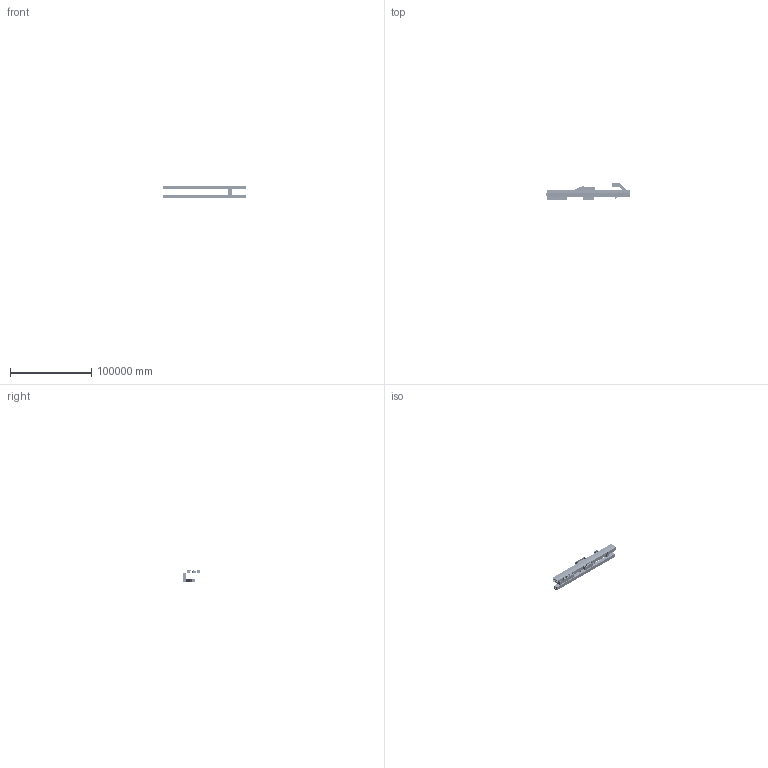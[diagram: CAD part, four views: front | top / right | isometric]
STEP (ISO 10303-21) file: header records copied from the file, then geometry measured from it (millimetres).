
FILE_DESCRIPTION(/* description */ ('Unknown','CAx-IF Rec.Pracs.---Representation and Presentation of Product Manufacturing Information (PMI)---4.0---2014-10-13','CAx-IF Rec.Pracs.---3D Tessellated Geometry---0.4---2014-09-14','2;1'),/* implementation_level */ '2;1');
FILE_NAME(/* name */ 'DSG-000024080_sector_10',/* time_stamp */ '2022-01-14T10:21:58-08:00',/* author */ ('Unknown'),/* organization */ ('Unknown'),/* preprocessor_version */ 'ST-DEVELOPER v16.7',/* originating_system */ 'DEX',/* authorisation */ $);
FILE_SCHEMA (('AP242_MANAGED_MODEL_BASED_3D_ENGINEERING_MIM_LF { 1 0 10303 442 1 1 4 }'));
Products named in the file (274): DSG-000024080; DSG-000017704; REF-000116566; REF-000166867; REF-000116570; REF-000116572; REF-000116567; DSG-000017705; REF-000129618; REF-000144345; REF-000092901; REF-000092910; REF-000144333; REF-000144346; REF-000129621; REF-000129617; REF-000144348; REF-000129622; REF-000144336; REF-000144349; REF-000144329; REF-000129616; REF-000144332; REF-000129620; REF-000129615; REF-000092902; REF-000144335; REF-000129614; REF-000129613; REF-000129619; REF-000144347; REF-000144338; REF-000129610; REF-000144339; REF-000129611; REF-000129612; REF-000144340; REF-000129609; REF-000144362; REF-000129623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
Assembly tree (1047 placements, depth 7):
  DSG-000024080
    DSG-000017704
      REF-000116566
        REF-000166867
        REF-000116570
        REF-000116572
        REF-000116567
      DSG-000017705
        REF-000166867
        REF-000129618
        REF-000144345
        REF-000092901
        REF-000092910  x9
        REF-000144333
        REF-000144346
        REF-000129621
        REF-000129617
        REF-000144348
        REF-000129622
        REF-000144336  x2
        REF-000144349
        REF-000144329
        REF-000129616
        REF-000144332
        REF-000129620
        REF-000129615
        REF-000092902
        REF-000144335
        REF-000129614
        REF-000129613
        REF-000129619
        REF-000144347
        REF-000144338
        REF-000129610
        REF-000144339
        REF-000129611
        REF-000129612
        REF-000144340
        REF-000129609
        REF-000144362
        REF-000129623
        REF-000144344
        REF-000129624
        REF-000144341
        REF-000144343
        REF-000144334
        REF-000144331
        REF-000144330
        REF-000144342
        REF-000144350
        REF-000144351
        REF-000144352
        REF-000144353
        REF-000144354
        REF-000144355
      DSG-000017706
        REF-000166867
        REF-000113325
        REF-000092897
        REF-000130374
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Bounding box: 408503.81 x 21364 x 15910.06 mm (x, y, z)
Volume: 14513585485609.6 mm3; surface area: 85614777766.1 mm2
Topology: 1178 solids, 1199 shells, 30324 faces, 83583 edges, 54572 vertices
Faces by surface type: plane 18335, cylinder 7735, cone 3922, torus 286, bspline 30, sphere 16
Full cylindrical faces by diameter (mm): 1.4 x2, 2.25 x1, 2.459 x2, 3 x9, 3.2 x1, 3.242 x2, 3.26 x2, 3.3 x2, 4 x14, 4.134 x2, 4.25 x1, 4.3 x1, 4.4 x8, 4.5 x2, 4.8 x2, 4.9 x1, 4.917 x12, 4.96 x4, 5 x6, 5.006 x2, 5.5 x3, 5.6 x2, 6 x35, 6.1 x2, 6.35 x4, 6.4 x12, 6.5 x2, 6.6 x12, 6.647 x32, 6.66 x18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
Entity records: 327096 total; most frequent: CARTESIAN_POINT 55164, DIRECTION 52783, ORIENTED_EDGE 47592, EDGE_CURVE 23799, AXIS2_PLACEMENT_3D 18562, VERTEX_POINT 17165, FACE_BOUND 16084, EDGE_LOOP 16017
